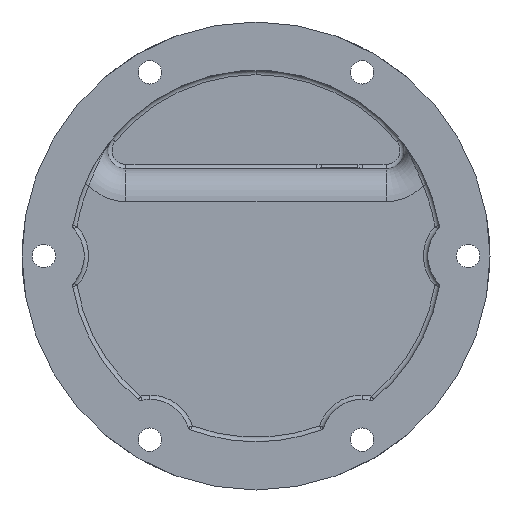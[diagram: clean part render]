
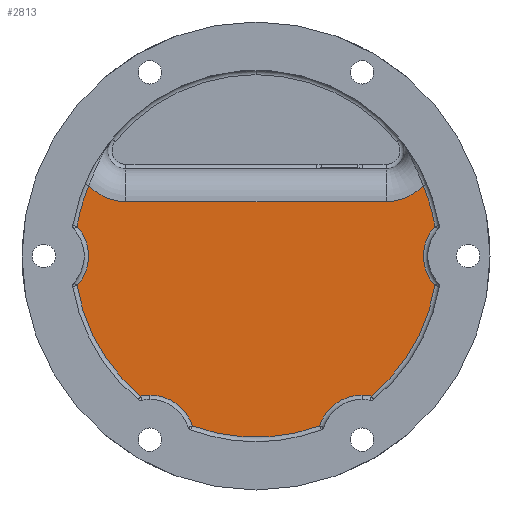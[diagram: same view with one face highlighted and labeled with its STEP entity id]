
A CAD part, front view. The second image highlights one B-rep face of the part: STEP entity #2813.
In plain terms, the highlighted planar face has unit normal (0, -1, 0).
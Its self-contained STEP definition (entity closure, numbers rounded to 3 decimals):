
#30 = ORIENTED_EDGE ( 'NONE', *, *, #848, .T. ) ;
#49 = CIRCLE ( 'NONE', #3921, 6.1 ) ;
#108 = DIRECTION ( 'NONE',  ( 0., -1., 0. ) ) ;
#109 = DIRECTION ( 'NONE',  ( 0., 1., 0. ) ) ;
#224 = AXIS2_PLACEMENT_3D ( 'NONE', #1229, #3342, #5448 ) ;
#354 = CIRCLE ( 'NONE', #4236, 7. ) ;
#371 = CARTESIAN_POINT ( 'NONE',  ( -14.5, 7., -25.115 ) ) ;
#391 = CIRCLE ( 'NONE', #4275, 24.8 ) ;
#419 = DIRECTION ( 'NONE',  ( 0., 1., 0. ) ) ;
#565 = DIRECTION ( 'NONE',  ( 0., -1., 0. ) ) ;
#689 = AXIS2_PLACEMENT_3D ( 'NONE', #4397, #6510, #1769 ) ;
#714 = LINE ( 'NONE', #2836, #4874 ) ;
#743 = CARTESIAN_POINT ( 'NONE',  ( -15.762, 7., -19.147 ) ) ;
#816 = CIRCLE ( 'NONE', #4701, 6.1 ) ;
#828 = AXIS2_PLACEMENT_3D ( 'NONE', #6389, #1120, #3244 ) ;
#848 = EDGE_CURVE ( 'NONE', #4125, #6207, #6784, .T. ) ;
#969 = ORIENTED_EDGE ( 'NONE', *, *, #2101, .T. ) ;
#1008 = ORIENTED_EDGE ( 'NONE', *, *, #4467, .T. ) ;
#1063 = DIRECTION ( 'NONE',  ( 0., 0., 1. ) ) ;
#1099 = VERTEX_POINT ( 'NONE', #3246 ) ;
#1120 = DIRECTION ( 'NONE',  ( 0., -1., 0. ) ) ;
#1145 = EDGE_CURVE ( 'NONE', #2568, #2159, #2854, .T. ) ;
#1158 = DIRECTION ( 'NONE',  ( 0., -1., 0. ) ) ;
#1203 = DIRECTION ( 'NONE',  ( 0., 1., 0. ) ) ;
#1229 = CARTESIAN_POINT ( 'NONE',  ( 0., 7., 0. ) ) ;
#1237 = AXIS2_PLACEMENT_3D ( 'NONE', #5380, #109, #2240 ) ;
#1266 = AXIS2_PLACEMENT_3D ( 'NONE', #5907, #1158, #3278 ) ;
#1291 = VERTEX_POINT ( 'NONE', #2007 ) ;
#1318 = CARTESIAN_POINT ( 'NONE',  ( 0., 7., 0. ) ) ;
#1585 = PLANE ( 'NONE',  #1975 ) ;
#1611 = VERTEX_POINT ( 'NONE', #4069 ) ;
#1669 = VERTEX_POINT ( 'NONE', #3830 ) ;
#1670 = EDGE_CURVE ( 'NONE', #6207, #2651, #6619, .T. ) ;
#1769 = DIRECTION ( 'NONE',  ( 0., 0., 1. ) ) ;
#1869 = AXIS2_PLACEMENT_3D ( 'NONE', #1318, #3437, #5549 ) ;
#1969 = VERTEX_POINT ( 'NONE', #3177 ) ;
#1975 = AXIS2_PLACEMENT_3D ( 'NONE', #3702, #5822, #1063 ) ;
#2007 = CARTESIAN_POINT ( 'NONE',  ( 17.782, 7., 7.429 ) ) ;
#2013 = EDGE_CURVE ( 'NONE', #4659, #1969, #391, .T. ) ;
#2101 = EDGE_CURVE ( 'NONE', #1969, #1099, #4216, .T. ) ;
#2151 = CARTESIAN_POINT ( 'NONE',  ( 17.782, 7., 14.429 ) ) ;
#2159 = VERTEX_POINT ( 'NONE', #6656 ) ;
#2238 = CARTESIAN_POINT ( 'NONE',  ( 29., 7., 0. ) ) ;
#2239 = DIRECTION ( 'NONE',  ( 0., 0., 1. ) ) ;
#2240 = DIRECTION ( 'NONE',  ( 0., 0., 1. ) ) ;
#2254 = CARTESIAN_POINT ( 'NONE',  ( -22.861, 7., 9.613 ) ) ;
#2369 = EDGE_LOOP ( 'NONE', ( #6488, #3396, #2521, #2499, #2494, #3401, #969, #4283, #2580, #2857, #1008, #30, #2594, #5447 ) ) ;
#2396 = CARTESIAN_POINT ( 'NONE',  ( 24.463, 7., 4.077 ) ) ;
#2463 = EDGE_CURVE ( 'NONE', #6625, #1669, #3679, .T. ) ;
#2494 = ORIENTED_EDGE ( 'NONE', *, *, #4306, .F. ) ;
#2499 = ORIENTED_EDGE ( 'NONE', *, *, #4687, .F. ) ;
#2508 = DIRECTION ( 'NONE',  ( 0., 1., 0. ) ) ;
#2521 = ORIENTED_EDGE ( 'NONE', *, *, #3779, .F. ) ;
#2550 = DIRECTION ( 'NONE',  ( 0., 0., 1. ) ) ;
#2568 = VERTEX_POINT ( 'NONE', #2396 ) ;
#2580 = ORIENTED_EDGE ( 'NONE', *, *, #6300, .T. ) ;
#2594 = ORIENTED_EDGE ( 'NONE', *, *, #1670, .T. ) ;
#2651 = VERTEX_POINT ( 'NONE', #6195 ) ;
#2692 = DIRECTION ( 'NONE',  ( 0., 0., 1. ) ) ;
#2813 = ADVANCED_FACE ( 'NONE', ( #6337 ), #1585, .F. ) ;
#2836 = CARTESIAN_POINT ( 'NONE',  ( 32., 7., 7.429 ) ) ;
#2854 = CIRCLE ( 'NONE', #6723, 24.8 ) ;
#2857 = ORIENTED_EDGE ( 'NONE', *, *, #2463, .T. ) ;
#2916 = VERTEX_POINT ( 'NONE', #743 ) ;
#2975 = VERTEX_POINT ( 'NONE', #3064 ) ;
#3064 = CARTESIAN_POINT ( 'NONE',  ( 24.463, 7., -4.077 ) ) ;
#3177 = CARTESIAN_POINT ( 'NONE',  ( -24.463, 7., 4.077 ) ) ;
#3236 = CIRCLE ( 'NONE', #224, 24.8 ) ;
#3244 = DIRECTION ( 'NONE',  ( 0., 0., 1. ) ) ;
#3246 = CARTESIAN_POINT ( 'NONE',  ( -24.463, 7., -4.077 ) ) ;
#3278 = DIRECTION ( 'NONE',  ( 0., 0., 1. ) ) ;
#3313 = DIRECTION ( 'NONE',  ( 0., 0., 1. ) ) ;
#3342 = DIRECTION ( 'NONE',  ( 0., -1., 0. ) ) ;
#3396 = ORIENTED_EDGE ( 'NONE', *, *, #1145, .T. ) ;
#3401 = ORIENTED_EDGE ( 'NONE', *, *, #2013, .T. ) ;
#3437 = DIRECTION ( 'NONE',  ( 0., -1., 0. ) ) ;
#3619 = EDGE_CURVE ( 'NONE', #1099, #2916, #3236, .T. ) ;
#3639 = AXIS2_PLACEMENT_3D ( 'NONE', #5950, #1203, #3313 ) ;
#3679 = CIRCLE ( 'NONE', #689, 6.1 ) ;
#3702 = CARTESIAN_POINT ( 'NONE',  ( 32., 7., 0. ) ) ;
#3779 = EDGE_CURVE ( 'NONE', #1291, #2159, #354, .T. ) ;
#3795 = AXIS2_PLACEMENT_3D ( 'NONE', #5162, #419, #2550 ) ;
#3818 = DIRECTION ( 'NONE',  ( 0., 1., 0. ) ) ;
#3823 = CIRCLE ( 'NONE', #828, 7. ) ;
#3830 = CARTESIAN_POINT ( 'NONE',  ( -8.701, 7., -23.224 ) ) ;
#3921 = AXIS2_PLACEMENT_3D ( 'NONE', #2238, #3818, #5941 ) ;
#4069 = CARTESIAN_POINT ( 'NONE',  ( -17.782, 7., 7.429 ) ) ;
#4125 = VERTEX_POINT ( 'NONE', #4576 ) ;
#4216 = CIRCLE ( 'NONE', #1237, 6.1 ) ;
#4236 = AXIS2_PLACEMENT_3D ( 'NONE', #2151, #4260, #6382 ) ;
#4256 = CIRCLE ( 'NONE', #1266, 24.8 ) ;
#4260 = DIRECTION ( 'NONE',  ( 0., -1., 0. ) ) ;
#4275 = AXIS2_PLACEMENT_3D ( 'NONE', #5307, #565, #2692 ) ;
#4283 = ORIENTED_EDGE ( 'NONE', *, *, #3619, .T. ) ;
#4306 = EDGE_CURVE ( 'NONE', #4659, #1611, #3823, .T. ) ;
#4397 = CARTESIAN_POINT ( 'NONE',  ( -14.5, 7., -25.115 ) ) ;
#4467 = EDGE_CURVE ( 'NONE', #1669, #4125, #4856, .T. ) ;
#4576 = CARTESIAN_POINT ( 'NONE',  ( 8.701, 7., -23.224 ) ) ;
#4603 = DIRECTION ( 'NONE',  ( 0., 0., 1. ) ) ;
#4659 = VERTEX_POINT ( 'NONE', #2254 ) ;
#4687 = EDGE_CURVE ( 'NONE', #1611, #1291, #714, .T. ) ;
#4701 = AXIS2_PLACEMENT_3D ( 'NONE', #371, #2508, #4603 ) ;
#4855 = CARTESIAN_POINT ( 'NONE',  ( 0., 7., 0. ) ) ;
#4856 = CIRCLE ( 'NONE', #1869, 24.8 ) ;
#4874 = VECTOR ( 'NONE', #4936, 1000. ) ;
#4936 = DIRECTION ( 'NONE',  ( 1., 0., 0. ) ) ;
#5162 = CARTESIAN_POINT ( 'NONE',  ( 14.5, 7., -25.115 ) ) ;
#5307 = CARTESIAN_POINT ( 'NONE',  ( 0., 7., 0. ) ) ;
#5380 = CARTESIAN_POINT ( 'NONE',  ( -29., 7., 0. ) ) ;
#5443 = CARTESIAN_POINT ( 'NONE',  ( 14.5, 7., -19.015 ) ) ;
#5447 = ORIENTED_EDGE ( 'NONE', *, *, #6098, .T. ) ;
#5448 = DIRECTION ( 'NONE',  ( 0., 0., 1. ) ) ;
#5549 = DIRECTION ( 'NONE',  ( 0., 0., 1. ) ) ;
#5822 = DIRECTION ( 'NONE',  ( 0., 1., 0. ) ) ;
#5907 = CARTESIAN_POINT ( 'NONE',  ( 0., 7., 0. ) ) ;
#5941 = DIRECTION ( 'NONE',  ( 0., 0., 1. ) ) ;
#5950 = CARTESIAN_POINT ( 'NONE',  ( 14.5, 7., -25.115 ) ) ;
#6098 = EDGE_CURVE ( 'NONE', #2651, #2975, #4256, .T. ) ;
#6140 = EDGE_CURVE ( 'NONE', #2975, #2568, #49, .T. ) ;
#6195 = CARTESIAN_POINT ( 'NONE',  ( 15.762, 7., -19.147 ) ) ;
#6207 = VERTEX_POINT ( 'NONE', #5443 ) ;
#6300 = EDGE_CURVE ( 'NONE', #2916, #6625, #816, .T. ) ;
#6337 = FACE_OUTER_BOUND ( 'NONE', #2369, .T. ) ;
#6382 = DIRECTION ( 'NONE',  ( 0., 0., 1. ) ) ;
#6389 = CARTESIAN_POINT ( 'NONE',  ( -17.782, 7., 14.429 ) ) ;
#6404 = CARTESIAN_POINT ( 'NONE',  ( -14.5, 7., -19.015 ) ) ;
#6488 = ORIENTED_EDGE ( 'NONE', *, *, #6140, .T. ) ;
#6510 = DIRECTION ( 'NONE',  ( 0., 1., 0. ) ) ;
#6619 = CIRCLE ( 'NONE', #3639, 6.1 ) ;
#6625 = VERTEX_POINT ( 'NONE', #6404 ) ;
#6656 = CARTESIAN_POINT ( 'NONE',  ( 22.861, 7., 9.613 ) ) ;
#6723 = AXIS2_PLACEMENT_3D ( 'NONE', #4855, #108, #2239 ) ;
#6784 = CIRCLE ( 'NONE', #3795, 6.1 ) ;
